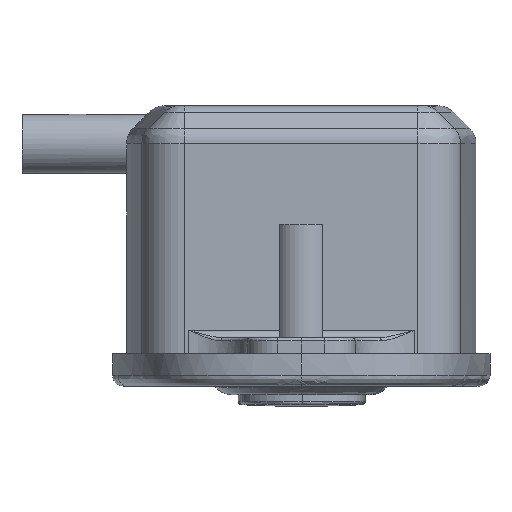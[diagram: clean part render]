
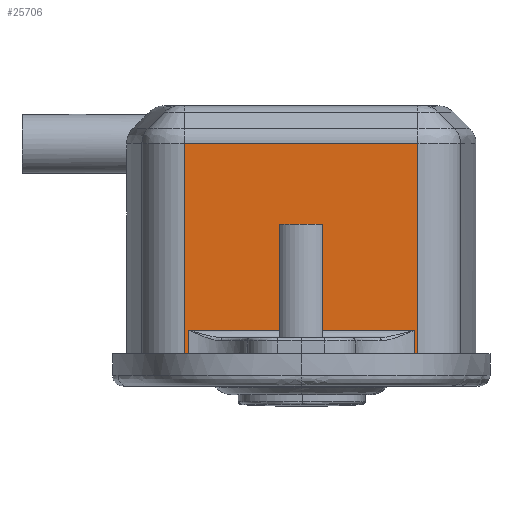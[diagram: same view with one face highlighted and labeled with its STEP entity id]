
A CAD part, left-side view. The second image highlights one B-rep face of the part: STEP entity #25706.
In plain terms, the highlighted planar face has unit normal (-1, 0, 0).
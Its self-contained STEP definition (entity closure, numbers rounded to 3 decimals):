
#131 = CARTESIAN_POINT ( 'NONE',  ( -35.5, 10.5, 5.2 ) ) ;
#410 = ORIENTED_EDGE ( 'NONE', *, *, #26464, .T. ) ;
#1349 = DIRECTION ( 'NONE',  ( 0., -1., 0. ) ) ;
#1575 = CARTESIAN_POINT ( 'NONE',  ( -35.5, 10.5, 4.2 ) ) ;
#2030 = AXIS2_PLACEMENT_3D ( 'NONE', #6093, #8388, #7948 ) ;
#2263 = CARTESIAN_POINT ( 'NONE',  ( -35.5, -10.5, 5.2 ) ) ;
#2326 = ORIENTED_EDGE ( 'NONE', *, *, #20541, .F. ) ;
#2478 = VECTOR ( 'NONE', #8975, 1000. ) ;
#2684 = CARTESIAN_POINT ( 'NONE',  ( -35.5, -10.808, 14.5 ) ) ;
#3236 = VECTOR ( 'NONE', #16560, 1000. ) ;
#3275 = VERTEX_POINT ( 'NONE', #8470 ) ;
#3366 = EDGE_CURVE ( 'NONE', #13229, #8104, #17044, .T. ) ;
#3508 = ORIENTED_EDGE ( 'NONE', *, *, #3366, .F. ) ;
#3619 = CARTESIAN_POINT ( 'NONE',  ( -35.5, 10.5, 3. ) ) ;
#5556 = VECTOR ( 'NONE', #21384, 1000. ) ;
#6093 = CARTESIAN_POINT ( 'NONE',  ( -35.5, 14.281, 54.96 ) ) ;
#6195 = VECTOR ( 'NONE', #8798, 1000. ) ;
#6279 = LINE ( 'NONE', #1575, #5556 ) ;
#6969 = DIRECTION ( 'NONE',  ( 0., 1., 0. ) ) ;
#7595 = EDGE_LOOP ( 'NONE', ( #28063, #16961, #410, #11774, #9582, #2326, #13214, #3508 ) ) ;
#7948 = DIRECTION ( 'NONE',  ( 0., -1., 0. ) ) ;
#7966 = CARTESIAN_POINT ( 'NONE',  ( -35.5, 14.281, 3. ) ) ;
#8104 = VERTEX_POINT ( 'NONE', #14274 ) ;
#8346 = VECTOR ( 'NONE', #26791, 1000. ) ;
#8388 = DIRECTION ( 'NONE',  ( -1., 0., 0. ) ) ;
#8470 = CARTESIAN_POINT ( 'NONE',  ( -35.5, -10.808, 22.472 ) ) ;
#8487 = VECTOR ( 'NONE', #6969, 1000. ) ;
#8798 = DIRECTION ( 'NONE',  ( 0., 0., -1. ) ) ;
#8975 = DIRECTION ( 'NONE',  ( 0., -1., 0. ) ) ;
#9333 = FACE_OUTER_BOUND ( 'NONE', #7595, .T. ) ;
#9582 = ORIENTED_EDGE ( 'NONE', *, *, #25925, .T. ) ;
#9797 = LINE ( 'NONE', #13571, #8487 ) ;
#9952 = LINE ( 'NONE', #18000, #2478 ) ;
#10258 = CARTESIAN_POINT ( 'NONE',  ( -35.5, -10.5, 54.96 ) ) ;
#10854 = VERTEX_POINT ( 'NONE', #131 ) ;
#11242 = CARTESIAN_POINT ( 'NONE',  ( -35.5, 14.281, 5.2 ) ) ;
#11269 = PLANE ( 'NONE',  #2030 ) ;
#11774 = ORIENTED_EDGE ( 'NONE', *, *, #20624, .T. ) ;
#13214 = ORIENTED_EDGE ( 'NONE', *, *, #26426, .T. ) ;
#13229 = VERTEX_POINT ( 'NONE', #24788 ) ;
#13441 = CARTESIAN_POINT ( 'NONE',  ( -35.5, -10.808, 3. ) ) ;
#13571 = CARTESIAN_POINT ( 'NONE',  ( -35.5, 14.281, 22.472 ) ) ;
#14274 = CARTESIAN_POINT ( 'NONE',  ( -35.5, 10.807, 22.472 ) ) ;
#14309 = VECTOR ( 'NONE', #24435, 1000. ) ;
#16351 = VERTEX_POINT ( 'NONE', #13441 ) ;
#16560 = DIRECTION ( 'NONE',  ( 0., 0., 1. ) ) ;
#16954 = VECTOR ( 'NONE', #1349, 1000. ) ;
#16961 = ORIENTED_EDGE ( 'NONE', *, *, #25449, .T. ) ;
#17044 = LINE ( 'NONE', #18479, #3236 ) ;
#17317 = VERTEX_POINT ( 'NONE', #3619 ) ;
#18000 = CARTESIAN_POINT ( 'NONE',  ( -35.5, 14.281, 3. ) ) ;
#18479 = CARTESIAN_POINT ( 'NONE',  ( -35.5, 10.807, 14.5 ) ) ;
#20541 = EDGE_CURVE ( 'NONE', #3275, #16351, #28205, .T. ) ;
#20624 = EDGE_CURVE ( 'NONE', #25832, #26188, #23019, .T. ) ;
#21384 = DIRECTION ( 'NONE',  ( 0., 0., 1. ) ) ;
#21772 = EDGE_CURVE ( 'NONE', #13229, #17317, #9952, .T. ) ;
#22138 = LINE ( 'NONE', #7966, #16954 ) ;
#23019 = LINE ( 'NONE', #10258, #8346 ) ;
#23038 = LINE ( 'NONE', #11242, #14309 ) ;
#24435 = DIRECTION ( 'NONE',  ( 0., -1., 0. ) ) ;
#24788 = CARTESIAN_POINT ( 'NONE',  ( -35.5, 10.807, 3. ) ) ;
#25449 = EDGE_CURVE ( 'NONE', #17317, #10854, #6279, .T. ) ;
#25706 = ADVANCED_FACE ( 'NONE', ( #9333 ), #11269, .T. ) ;
#25832 = VERTEX_POINT ( 'NONE', #2263 ) ;
#25925 = EDGE_CURVE ( 'NONE', #26188, #16351, #22138, .T. ) ;
#26188 = VERTEX_POINT ( 'NONE', #27969 ) ;
#26426 = EDGE_CURVE ( 'NONE', #3275, #8104, #9797, .T. ) ;
#26464 = EDGE_CURVE ( 'NONE', #10854, #25832, #23038, .T. ) ;
#26791 = DIRECTION ( 'NONE',  ( 0., 0., -1. ) ) ;
#27969 = CARTESIAN_POINT ( 'NONE',  ( -35.5, -10.5, 3. ) ) ;
#28063 = ORIENTED_EDGE ( 'NONE', *, *, #21772, .T. ) ;
#28205 = LINE ( 'NONE', #2684, #6195 ) ;
